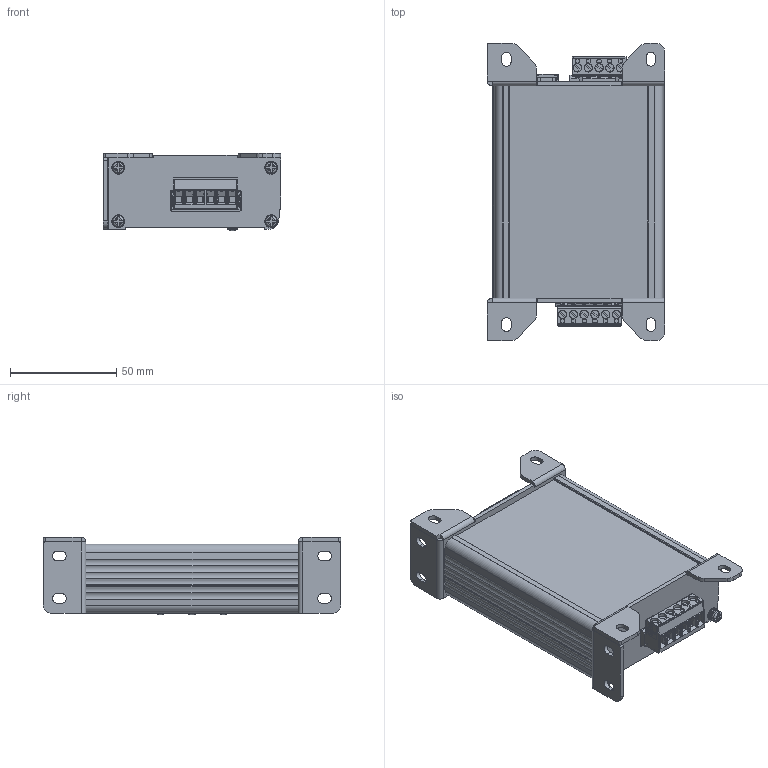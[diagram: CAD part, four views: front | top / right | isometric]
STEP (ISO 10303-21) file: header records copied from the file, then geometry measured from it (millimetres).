
FILE_DESCRIPTION(/* description */ (''),/* implementation_level */ '2;1');
FILE_NAME(/* name */ 'G:\015_BSMS_배터리 스와핑 관리 시스템\[ 3D 파일 ]\[최종 3D파일_2024.04.15~]\3D-BSMS.stp',/* time_stamp */ '2024-04-16T10:43:19+09:00',/* author */ ('jjang'),/* organization */ (''),/* preprocessor_version */ 'ST-DEVELOPER v18.1',/* originating_system */ 'Autodesk Inventor 2021',/* authorisation */ '');
FILE_SCHEMA (('AUTOMOTIVE_DESIGN { 1 0 10303 214 3 1 1 }'));
Products named in the file (1): DCDC CONVERTER ASS'Y_Shrinkwrap_1
Bounding box: 83.51 x 140 x 36.47 mm (x, y, z)
Volume: 83177.8 mm3; surface area: 100152.8 mm2
Topology: 10 solids, 14 shells, 3880 faces, 11452 edges, 7565 vertices
Faces by surface type: plane 2964, cylinder 749, cone 86, torus 59, sphere 22
Full cylindrical faces by diameter (mm): 0.38 x2, 1.4 x2, 2 x2, 2.8 x8, 2.957 x16, 3 x11, 3.3 x8, 3.385 x3, 3.821 x11, 4 x11, 4.389 x3, 4.4 x3, 4.902 x3, 5.4 x8, 5.429 x8
Entity records: 133435 total; most frequent: CARTESIAN_POINT 24160, ORIENTED_EDGE 22824, DIRECTION 21365, EDGE_CURVE 11445, LINE 8815, VECTOR 8815, VERTEX_POINT 7565, AXIS2_PLACEMENT_3D 6275
